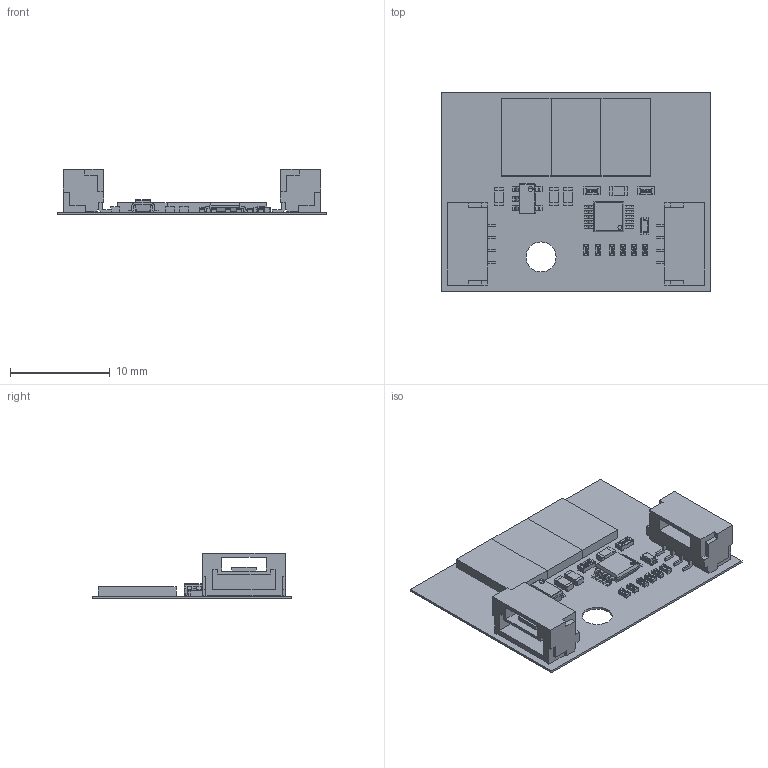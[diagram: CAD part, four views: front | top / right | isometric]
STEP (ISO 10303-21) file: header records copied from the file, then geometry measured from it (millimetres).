
FILE_DESCRIPTION(('Open CASCADE Model'),'2;1');
FILE_NAME('Open CASCADE Shape Model','2024-03-23T12:38:52',('Author'),( 'Open CASCADE'),'Open CASCADE STEP processor 6.8','Open CASCADE 6.8' ,'Unknown');
FILE_SCHEMA(('AUTOMOTIVE_DESIGN { 1 0 10303 214 1 1 1 1 }'));
Products named in the file (1): PCB
Bounding box: 27 x 20 x 4.57 mm (x, y, z)
Volume: 409 mm3; surface area: 2079.4 mm2
Topology: 52 solids, 578 shells, 1304 faces, 4594 edges, 3928 vertices
Faces by surface type: plane 969, bspline 226, cylinder 95, sphere 14
Full cylindrical faces by diameter (mm): 0.4 x1, 3 x1
Entity records: 77022 total; most frequent: CARTESIAN_POINT 36354, ORIENTED_EDGE 6526, DIRECTION 6033, EDGE_CURVE 4590, VERTEX_POINT 3928, LINE 3399, VECTOR 3399, FACE_BOUND 1372
